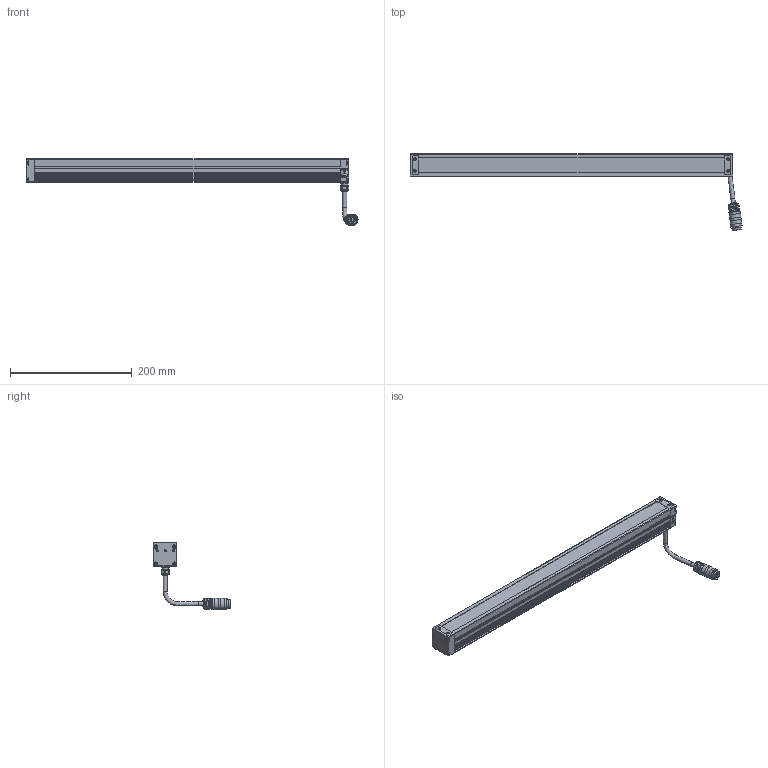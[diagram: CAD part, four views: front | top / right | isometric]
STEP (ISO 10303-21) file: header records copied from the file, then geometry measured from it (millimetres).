
FILE_DESCRIPTION(/* description */ (''),/* implementation_level */ '2;1');
FILE_NAME(/* name */ 'LBHP500',/* time_stamp */ '2025-01-14T08:06:13+01:00',/* author */ (''),/* organization */ ('iiM AG'),/* preprocessor_version */ 'ST-DEVELOPER v16.7',/* originating_system */ 'DEX',/* authorisation */ $);
FILE_SCHEMA (('AUTOMOTIVE_DESIGN {1 0 10303 214 3 1 1}'));
Length unit declared in the file: millimetre
Products named in the file (1): step export
Bounding box: 544.79 x 126.2 x 109.58 mm (x, y, z)
Volume: 688183.6 mm3; surface area: 155842.8 mm2
Topology: 2 solids, 2 shells, 882 faces, 2334 edges, 1476 vertices
Faces by surface type: cylinder 368, plane 336, cone 138, sphere 21, torus 16, bspline 3
Full cylindrical faces by diameter (mm): 1.001 x12, 2.693 x4, 3 x2, 3.1 x4, 3.242 x6, 3.8 x8, 5.6 x8, 6 x8, 6.8 x2, 8.008 x1, 10 x1, 11 x1, 12.9 x2, 14 x1, 15.015 x1, 16.016 x1, 17.518 x1, 18.519 x3, 18.619 x2
Entity records: 32582 total; most frequent: CARTESIAN_POINT 6224, ORIENTED_EDGE 4118, DIRECTION 4048, EDGE_CURVE 2059, AXIS2_PLACEMENT_3D 1523, VERTEX_POINT 1383, FACE_BOUND 1100, EDGE_LOOP 1086
